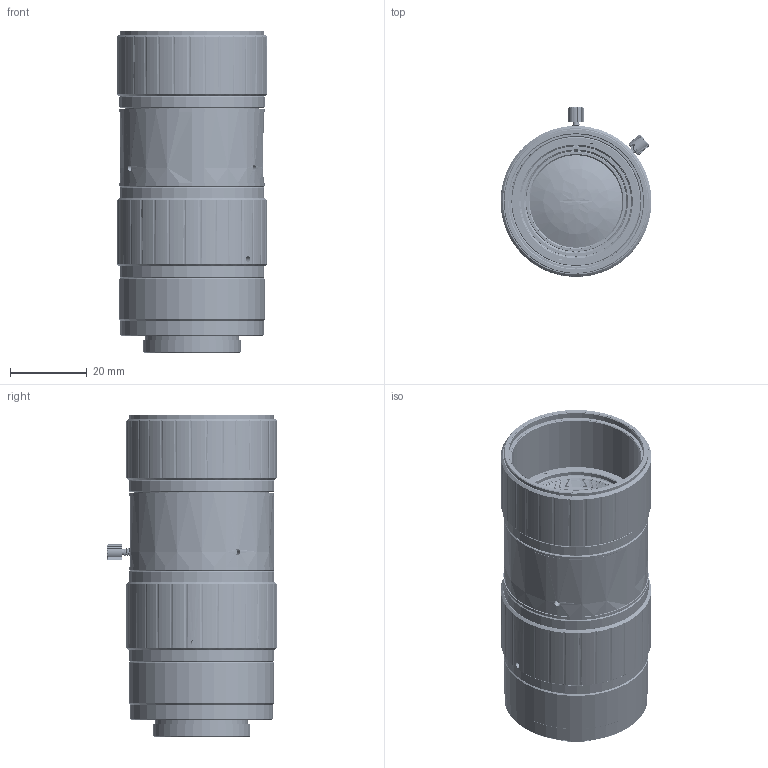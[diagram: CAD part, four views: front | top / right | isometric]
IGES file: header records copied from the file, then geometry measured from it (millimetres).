
Start section: SolidWorks IGES file using analytic representation for surfaces
Global section: file name: 2HF:\产品\产品图\90本公司\MJ9943xx12\MJ994370120\装配\总装\QM994370121总装\QM994370121总装.IGS; native system: SolidWorks 2018; preprocessor: SolidWorks 2018; author: hai; date: 240111.141215; units: millimetre
Bounding box: 39.2 x 44.2 x 83.9 mm (x, y, z)
Surface area: 55054.7 mm2 (no closed solid volume)
Topology: 0 solids, 0 shells, 1861 faces, 20672 edges, 20660 vertices
Faces by surface type: revolution 1190, bspline 671
